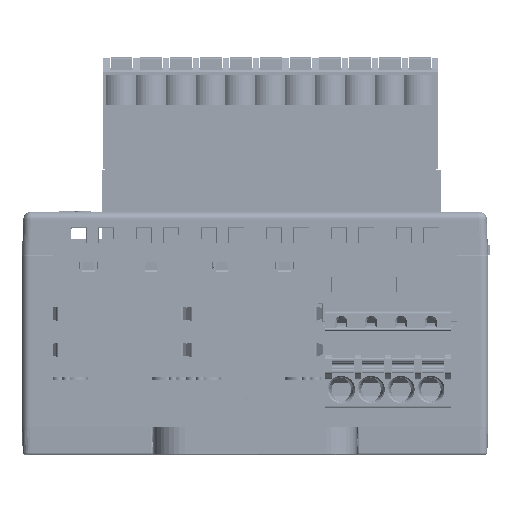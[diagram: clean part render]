
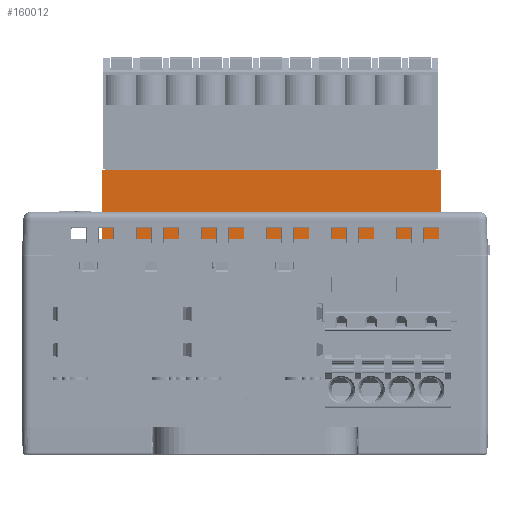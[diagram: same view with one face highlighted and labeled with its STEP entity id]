
A CAD part, front view. The second image highlights one B-rep face of the part: STEP entity #160012.
In plain terms, the highlighted planar face has unit normal (0, -1, 0).
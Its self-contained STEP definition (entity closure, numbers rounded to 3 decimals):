
#42042=DIRECTION('',(1.,0.,0.));
#42043=VECTOR('',#42042,43.3);
#42044=CARTESIAN_POINT('',(-19.55,-19.15,27.5));
#42045=LINE('',#42044,#42043);
#44478=DIRECTION('',(0.,0.,-1.));
#44479=VECTOR('',#44478,8.8);
#44480=CARTESIAN_POINT('',(23.75,-19.15,36.3));
#44481=LINE('',#44480,#44479);
#44486=DIRECTION('',(0.,0.,-1.));
#44487=VECTOR('',#44486,8.8);
#44488=CARTESIAN_POINT('',(-19.55,-19.15,36.3));
#44489=LINE('',#44488,#44487);
#44490=DIRECTION('',(-1.,0.,0.));
#44491=VECTOR('',#44490,43.3);
#44492=CARTESIAN_POINT('',(23.75,-19.15,36.3));
#44493=LINE('',#44492,#44491);
#57912=CARTESIAN_POINT('',(-19.55,-19.15,36.3));
#57914=VERTEX_POINT('',#57912);
#57918=CARTESIAN_POINT('',(23.75,-19.15,36.3));
#57919=VERTEX_POINT('',#57918);
#72562=CARTESIAN_POINT('',(-19.55,-19.15,27.5));
#72564=VERTEX_POINT('',#72562);
#72565=CARTESIAN_POINT('',(23.75,-19.15,27.5));
#72566=VERTEX_POINT('',#72565);
#160000=CARTESIAN_POINT('',(2.1,-19.15,31.7));
#160001=DIRECTION('',(0.,1.,0.));
#160002=DIRECTION('',(1.,0.,0.));
#160003=AXIS2_PLACEMENT_3D('',#160000,#160001,#160002);
#160004=PLANE('',#160003);
#160005=ORIENTED_EDGE('',*,*,#156157,.F.);
#160006=ORIENTED_EDGE('',*,*,#159946,.F.);
#160008=ORIENTED_EDGE('',*,*,#160007,.F.);
#160009=ORIENTED_EDGE('',*,*,#159985,.T.);
#160010=EDGE_LOOP('',(#160005,#160006,#160008,#160009));
#160011=FACE_OUTER_BOUND('',#160010,.F.);
#160012=ADVANCED_FACE('',(#160011),#160004,.F.);
#156157=EDGE_CURVE('',#72564,#72566,#42045,.T.);
#159946=EDGE_CURVE('',#57914,#72564,#44489,.T.);
#159985=EDGE_CURVE('',#57919,#72566,#44481,.T.);
#160007=EDGE_CURVE('',#57919,#57914,#44493,.T.);
